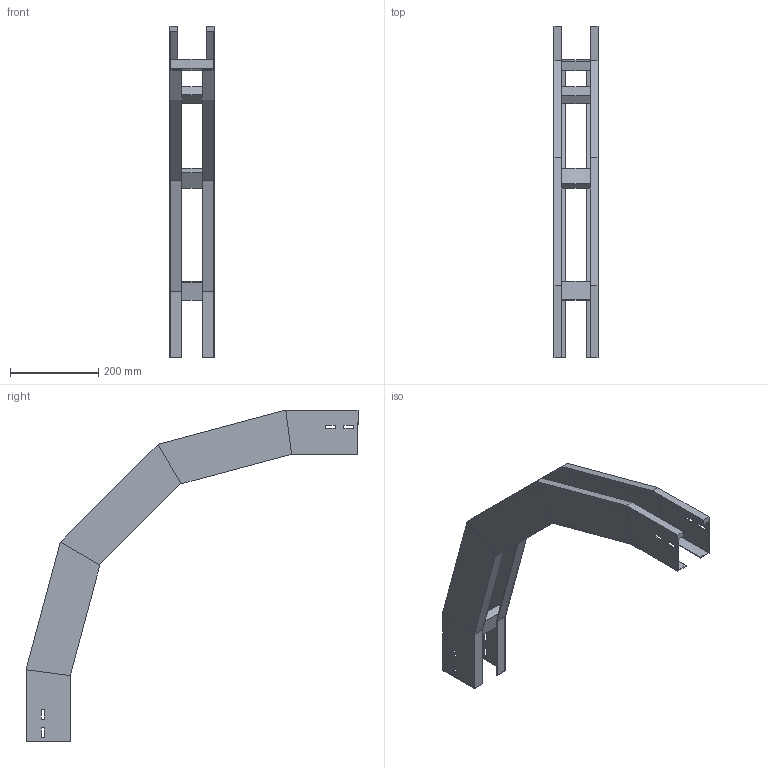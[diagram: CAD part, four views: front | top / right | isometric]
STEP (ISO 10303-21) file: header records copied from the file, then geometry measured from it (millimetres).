
FILE_DESCRIPTION (( 'STEP AP214' ), '1' );
FILE_NAME ('33B5D100.step', '2025-02-21T15:00:57', ( '' ), ( '' ), 'SwSTEP 2.0', 'SolidWorks 2023', '' );
FILE_SCHEMA (( 'AUTOMOTIVE_DESIGN' ));
Length unit declared in the file: millimetre
Products named in the file (3): LONGH.DISCESA_90°_H100_R500; TRAVERSINO_100; 33B5D100
Assembly tree (6 placements, depth 2):
  33B5D100
    LONGH.DISCESA_90°_H100_R500  x2
    TRAVERSINO_100  x4
Bounding box: 100 x 750.35 x 750.35 mm (x, y, z)
Volume: 1350468.1 mm3; surface area: 711603.4 mm2
Topology: 6 solids, 6 shells, 140 faces, 320 edges, 192 vertices
Faces by surface type: plane 140
Entity records: 1872 total; most frequent: CARTESIAN_POINT 309, ORIENTED_EDGE 296, DIRECTION 294, EDGE_CURVE 148, VECTOR 148, LINE 148, VERTEX_POINT 88, AXIS2_PLACEMENT_3D 73
